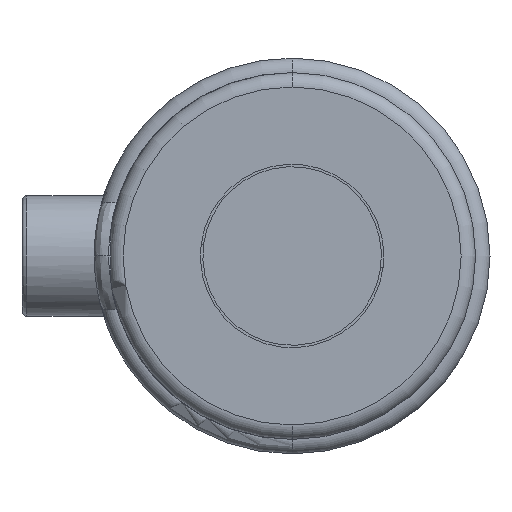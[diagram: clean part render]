
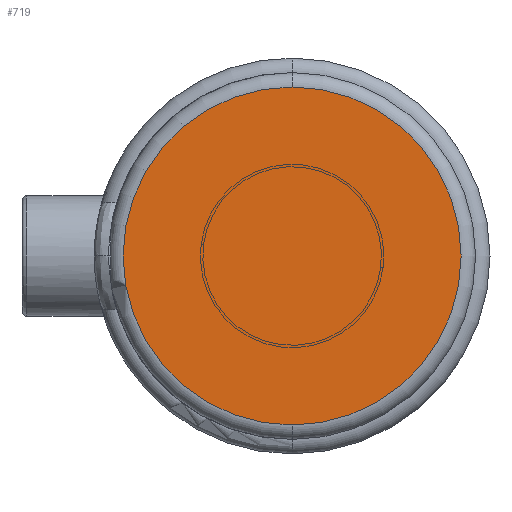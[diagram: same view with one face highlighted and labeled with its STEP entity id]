
A CAD part, left-side view. The second image highlights one B-rep face of the part: STEP entity #719.
In plain terms, the highlighted planar face has unit normal (-1, 0, 0).
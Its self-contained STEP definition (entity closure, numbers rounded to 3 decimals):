
#443 = VERTEX_POINT ( 'NONE', #2018 ) ;
#604 = CARTESIAN_POINT ( 'NONE',  ( 0., 0., 0. ) ) ;
#719 = ADVANCED_FACE ( 'NONE', ( #4174 ), #1474, .T. ) ;
#754 = EDGE_LOOP ( 'NONE', ( #937, #3713 ) ) ;
#937 = ORIENTED_EDGE ( 'NONE', *, *, #3265, .T. ) ;
#1061 = DIRECTION ( 'NONE',  ( 0., 0., 1. ) ) ;
#1072 = DIRECTION ( 'NONE',  ( 0., 0., 1. ) ) ;
#1474 = PLANE ( 'NONE',  #4991 ) ;
#1497 = VERTEX_POINT ( 'NONE', #1516 ) ;
#1516 = CARTESIAN_POINT ( 'NONE',  ( 0., 0., -35.1 ) ) ;
#1775 = EDGE_CURVE ( 'NONE', #1497, #443, #5773, .T. ) ;
#2018 = CARTESIAN_POINT ( 'NONE',  ( 0., 0., 35.1 ) ) ;
#2671 = DIRECTION ( 'NONE',  ( -1., 0., 0. ) ) ;
#3265 = EDGE_CURVE ( 'NONE', #443, #1497, #4451, .T. ) ;
#3276 = CARTESIAN_POINT ( 'NONE',  ( 0., 0., 0. ) ) ;
#3476 = AXIS2_PLACEMENT_3D ( 'NONE', #5294, #2671, #5739 ) ;
#3713 = ORIENTED_EDGE ( 'NONE', *, *, #1775, .T. ) ;
#3730 = DIRECTION ( 'NONE',  ( -1., 0., 0. ) ) ;
#3746 = DIRECTION ( 'NONE',  ( -1., 0., 0. ) ) ;
#4174 = FACE_OUTER_BOUND ( 'NONE', #754, .T. ) ;
#4451 = CIRCLE ( 'NONE', #3476, 35.1 ) ;
#4991 = AXIS2_PLACEMENT_3D ( 'NONE', #3276, #3730, #1061 ) ;
#5062 = AXIS2_PLACEMENT_3D ( 'NONE', #604, #3746, #1072 ) ;
#5294 = CARTESIAN_POINT ( 'NONE',  ( 0., 0., 0. ) ) ;
#5739 = DIRECTION ( 'NONE',  ( 0., 0., 1. ) ) ;
#5773 = CIRCLE ( 'NONE', #5062, 35.1 ) ;
